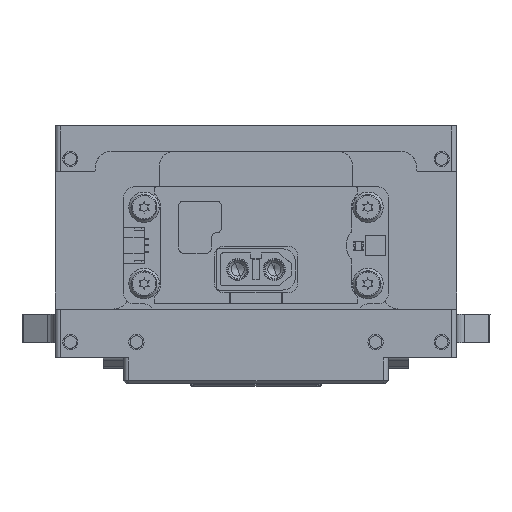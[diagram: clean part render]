
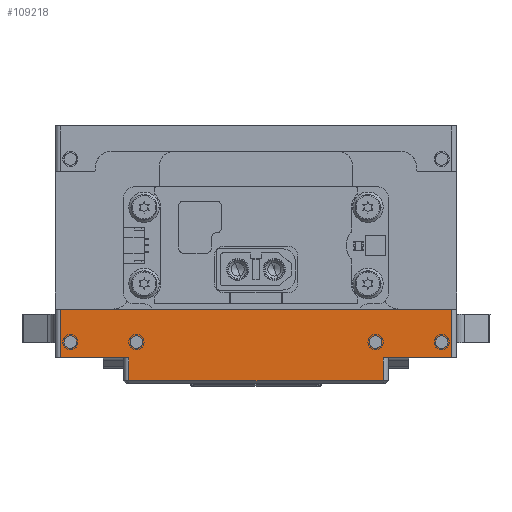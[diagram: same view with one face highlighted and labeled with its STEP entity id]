
A CAD part, front view. The second image highlights one B-rep face of the part: STEP entity #109218.
In plain terms, the highlighted planar face has unit normal (0, -1, 0).
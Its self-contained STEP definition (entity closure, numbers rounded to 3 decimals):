
#97316=DIRECTION('',(-1.,0.,0.));
#97317=VECTOR('',#97316,13.5);
#97318=CARTESIAN_POINT('',(-25.,-2.691,
-99.402));
#97319=LINE('',#97318,#97317);
#97323=DIRECTION('',(-1.,0.,0.));
#97324=VECTOR('',#97323,13.5);
#97325=CARTESIAN_POINT('',(38.5,-2.691,
-99.402));
#97326=LINE('',#97325,#97324);
#97330=CARTESIAN_POINT('',(-36.5,-2.691,
-96.302));
#97331=DIRECTION('',(0.,-1.,0.));
#97332=DIRECTION('',(-1.,0.,0.));
#97333=AXIS2_PLACEMENT_3D('',#97330,#97331,#97332);
#97338=CARTESIAN_POINT('',(-36.5,-2.691,
-96.302));
#97339=DIRECTION('',(0.,-1.,0.));
#97340=DIRECTION('',(1.,0.,0.));
#97341=AXIS2_PLACEMENT_3D('',#97338,#97339,#97340);
#97346=CARTESIAN_POINT('',(36.5,-2.691,
-96.302));
#97347=DIRECTION('',(0.,-1.,0.));
#97348=DIRECTION('',(-1.,0.,0.));
#97349=AXIS2_PLACEMENT_3D('',#97346,#97347,#97348);
#97354=CARTESIAN_POINT('',(36.5,-2.691,
-96.302));
#97355=DIRECTION('',(0.,-1.,0.));
#97356=DIRECTION('',(1.,0.,0.));
#97357=AXIS2_PLACEMENT_3D('',#97354,#97355,#97356);
#97362=CARTESIAN_POINT('',(23.5,-2.691,-96.302));
#97363=DIRECTION('',(0.,-1.,0.));
#97364=DIRECTION('',(-1.,0.,0.));
#97365=AXIS2_PLACEMENT_3D('',#97362,#97363,#97364);
#97370=CARTESIAN_POINT('',(23.5,-2.691,-96.302));
#97371=DIRECTION('',(0.,-1.,0.));
#97372=DIRECTION('',(1.,0.,0.));
#97373=AXIS2_PLACEMENT_3D('',#97370,#97371,#97372);
#97378=CARTESIAN_POINT('',(-23.5,-2.691,-96.302));
#97379=DIRECTION('',(0.,-1.,0.));
#97380=DIRECTION('',(-1.,0.,0.));
#97381=AXIS2_PLACEMENT_3D('',#97378,#97379,#97380);
#97386=CARTESIAN_POINT('',(-23.5,-2.691,-96.302));
#97387=DIRECTION('',(0.,-1.,0.));
#97388=DIRECTION('',(1.,0.,0.));
#97389=AXIS2_PLACEMENT_3D('',#97386,#97387,#97388);
#97394=DIRECTION('',(1.,0.,0.));
#97395=VECTOR('',#97394,50.);
#97396=CARTESIAN_POINT('',(-25.,-2.691,
-103.902));
#97397=LINE('',#97396,#97395);
#97535=DIRECTION('',(0.,0.,1.));
#97536=VECTOR('',#97535,4.5);
#97537=CARTESIAN_POINT('',(25.,-2.691,
-103.902));
#97538=LINE('',#97537,#97536);
#99060=DIRECTION('',(-1.,0.,0.));
#99061=VECTOR('',#99060,77.);
#99062=CARTESIAN_POINT('',(38.5,-2.692,
-89.802));
#99063=LINE('',#99062,#99061);
#99126=DIRECTION('',(0.,0.,1.));
#99127=VECTOR('',#99126,9.6);
#99128=CARTESIAN_POINT('',(38.5,-2.691,
-99.402));
#99129=LINE('',#99128,#99127);
#99140=DIRECTION('',(0.,0.,-1.));
#99141=VECTOR('',#99140,9.6);
#99142=CARTESIAN_POINT('',(-38.5,-2.692,
-89.802));
#99143=LINE('',#99142,#99141);
#105589=DIRECTION('',(0.,0.,-1.));
#105590=VECTOR('',#105589,4.5);
#105591=CARTESIAN_POINT('',(-25.,-2.691,
-99.402));
#105592=LINE('',#105591,#105590);
#106989=CARTESIAN_POINT('',(-25.,-2.691,
-103.902));
#106990=CARTESIAN_POINT('',(25.,-2.691,
-103.902));
#106991=VERTEX_POINT('',#106989);
#106992=VERTEX_POINT('',#106990);
#106993=CARTESIAN_POINT('',(-25.,-2.691,
-99.402));
#106994=VERTEX_POINT('',#106993);
#106995=CARTESIAN_POINT('',(-38.5,-2.691,
-99.402));
#106996=VERTEX_POINT('',#106995);
#106997=CARTESIAN_POINT('',(-38.5,-2.692,
-89.802));
#106998=VERTEX_POINT('',#106997);
#106999=CARTESIAN_POINT('',(38.5,-2.692,
-89.802));
#107000=VERTEX_POINT('',#106999);
#107001=CARTESIAN_POINT('',(38.5,-2.691,
-99.402));
#107002=VERTEX_POINT('',#107001);
#107003=CARTESIAN_POINT('',(25.,-2.691,
-99.402));
#107004=VERTEX_POINT('',#107003);
#107005=CARTESIAN_POINT('',(-37.75,-2.691,
-96.302));
#107006=CARTESIAN_POINT('',(-35.25,-2.691,
-96.302));
#107007=VERTEX_POINT('',#107005);
#107008=VERTEX_POINT('',#107006);
#107009=CARTESIAN_POINT('',(35.25,-2.691,
-96.302));
#107010=CARTESIAN_POINT('',(37.75,-2.691,
-96.302));
#107011=VERTEX_POINT('',#107009);
#107012=VERTEX_POINT('',#107010);
#107013=CARTESIAN_POINT('',(22.25,-2.691,-96.302));
#107014=CARTESIAN_POINT('',(24.75,-2.691,-96.302));
#107015=VERTEX_POINT('',#107013);
#107016=VERTEX_POINT('',#107014);
#107017=CARTESIAN_POINT('',(-24.75,-2.691,-96.302));
#107018=CARTESIAN_POINT('',(-22.25,-2.691,-96.302));
#107019=VERTEX_POINT('',#107017);
#107020=VERTEX_POINT('',#107018);
#109172=CARTESIAN_POINT('',(0.,-2.692,
-90.802));
#109173=DIRECTION('',(0.,-1.,0.));
#109174=DIRECTION('',(-1.,0.,0.));
#109175=AXIS2_PLACEMENT_3D('',#109172,#109173,#109174);
#109176=PLANE('',#109175);
#109178=ORIENTED_EDGE('',*,*,#109177,.F.);
#109180=ORIENTED_EDGE('',*,*,#109179,.F.);
#109181=ORIENTED_EDGE('',*,*,#109155,.T.);
#109183=ORIENTED_EDGE('',*,*,#109182,.F.);
#109185=ORIENTED_EDGE('',*,*,#109184,.F.);
#109187=ORIENTED_EDGE('',*,*,#109186,.F.);
#109189=ORIENTED_EDGE('',*,*,#109188,.T.);
#109191=ORIENTED_EDGE('',*,*,#109190,.F.);
#109192=EDGE_LOOP('',(#109178,#109180,#109181,#109183,#109185,#109187,#109189,
#109191));
#109193=FACE_OUTER_BOUND('',#109192,.F.);
#109195=ORIENTED_EDGE('',*,*,#109194,.T.);
#109197=ORIENTED_EDGE('',*,*,#109196,.T.);
#109198=EDGE_LOOP('',(#109195,#109197));
#109199=FACE_BOUND('',#109198,.F.);
#109201=ORIENTED_EDGE('',*,*,#109200,.T.);
#109203=ORIENTED_EDGE('',*,*,#109202,.T.);
#109204=EDGE_LOOP('',(#109201,#109203));
#109205=FACE_BOUND('',#109204,.F.);
#109207=ORIENTED_EDGE('',*,*,#109206,.T.);
#109209=ORIENTED_EDGE('',*,*,#109208,.T.);
#109210=EDGE_LOOP('',(#109207,#109209));
#109211=FACE_BOUND('',#109210,.F.);
#109213=ORIENTED_EDGE('',*,*,#109212,.T.);
#109215=ORIENTED_EDGE('',*,*,#109214,.T.);
#109216=EDGE_LOOP('',(#109213,#109215));
#109217=FACE_BOUND('',#109216,.F.);
#109218=ADVANCED_FACE('',(#109193,#109199,#109205,#109211,#109217),#109176,.T.);
#97334=CIRCLE('',#97333,1.25);
#97342=CIRCLE('',#97341,1.25);
#97350=CIRCLE('',#97349,1.25);
#97358=CIRCLE('',#97357,1.25);
#97366=CIRCLE('',#97365,1.25);
#97374=CIRCLE('',#97373,1.25);
#97382=CIRCLE('',#97381,1.25);
#97390=CIRCLE('',#97389,1.25);
#109155=EDGE_CURVE('',#106994,#106996,#97319,.T.);
#109177=EDGE_CURVE('',#106991,#106992,#97397,.T.);
#109179=EDGE_CURVE('',#106994,#106991,#105592,.T.);
#109182=EDGE_CURVE('',#106998,#106996,#99143,.T.);
#109184=EDGE_CURVE('',#107000,#106998,#99063,.T.);
#109186=EDGE_CURVE('',#107002,#107000,#99129,.T.);
#109188=EDGE_CURVE('',#107002,#107004,#97326,.T.);
#109190=EDGE_CURVE('',#106992,#107004,#97538,.T.);
#109194=EDGE_CURVE('',#107007,#107008,#97334,.T.);
#109196=EDGE_CURVE('',#107008,#107007,#97342,.T.);
#109200=EDGE_CURVE('',#107011,#107012,#97350,.T.);
#109202=EDGE_CURVE('',#107012,#107011,#97358,.T.);
#109206=EDGE_CURVE('',#107015,#107016,#97366,.T.);
#109208=EDGE_CURVE('',#107016,#107015,#97374,.T.);
#109212=EDGE_CURVE('',#107019,#107020,#97382,.T.);
#109214=EDGE_CURVE('',#107020,#107019,#97390,.T.);
